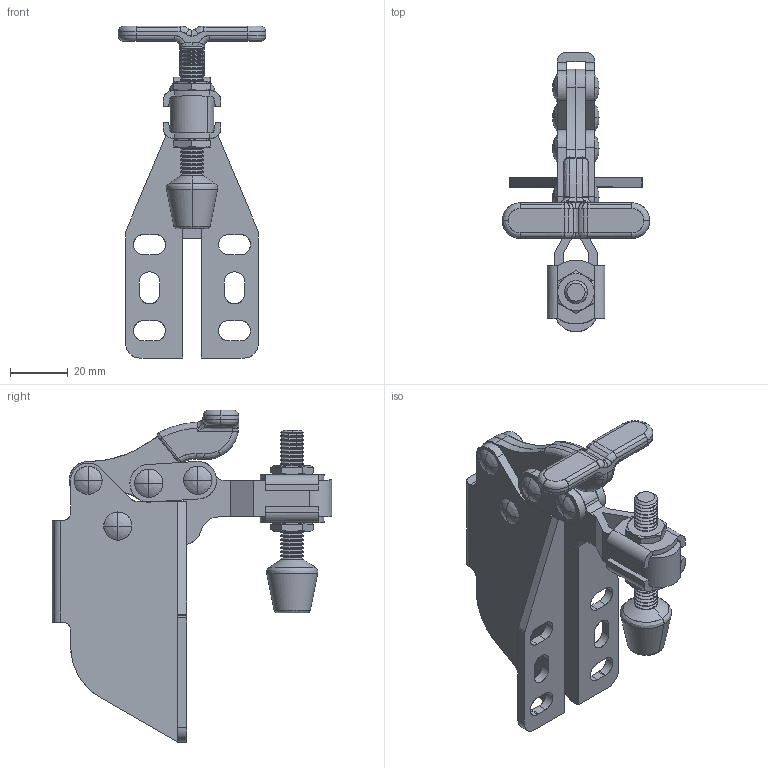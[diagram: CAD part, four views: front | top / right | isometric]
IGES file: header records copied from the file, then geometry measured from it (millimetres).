
Start section: 3D InterOp IGES (Version 17 0 1), Spatial Corp. Copyright (c) 1999-2007.
Bounding box: 51 x 96.69 x 114.83 mm (x, y, z)
Surface area: 41340.4 mm2 (no closed solid volume)
Topology: 0 solids, 0 shells, 658 faces, 4530 edges, 4502 vertices
Faces by surface type: bspline 658
